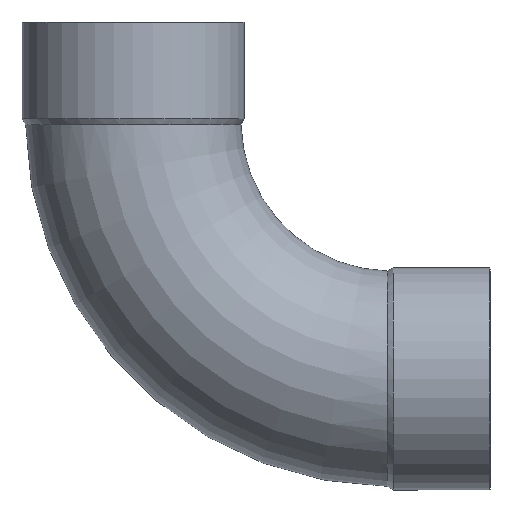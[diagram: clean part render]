
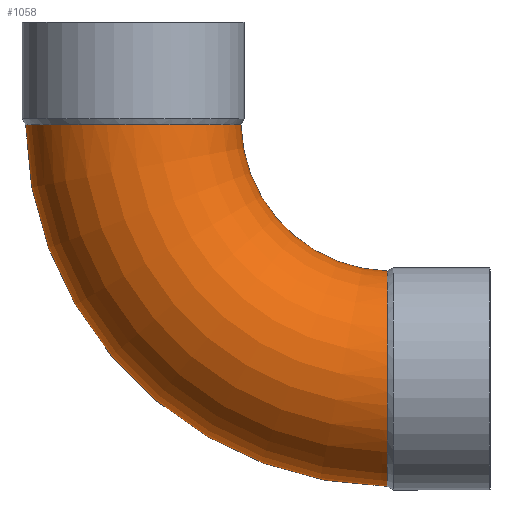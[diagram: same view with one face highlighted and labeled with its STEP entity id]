
A CAD part, front view. The second image highlights one B-rep face of the part: STEP entity #1058.
In plain terms, the highlighted toroidal (fillet/blend) face has major radius 129.6 mm and minor radius 54 mm.
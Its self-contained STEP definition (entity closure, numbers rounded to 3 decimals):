
#49=CARTESIAN_POINT('',(-161.551,0.,-2.223));
#50=VERTEX_POINT('',#49);
#51=CARTESIAN_POINT('',(19.812,0.,-183.587));
#52=VERTEX_POINT('',#51);
#53=CARTESIAN_POINT('',(22.035,0.,0.0));
#54=DIRECTION('',(0.0,-1.0,0.0));
#55=DIRECTION('',(0.0,0.0,-1.0));
#56=AXIS2_PLACEMENT_3D('',#53,#54,#55);
#57=CIRCLE('',#56,183.6);
#58=EDGE_CURVE('',#50,#52,#57,.T.);
#60=CARTESIAN_POINT('',(-53.534,0.,-2.147));
#61=VERTEX_POINT('',#60);
#85=CARTESIAN_POINT('',(19.888,0.,-75.57));
#86=VERTEX_POINT('',#85);
#87=CARTESIAN_POINT('',(22.035,0.,0.0));
#88=DIRECTION('',(0.0,1.0,0.0));
#89=DIRECTION('',(0.0,0.0,-1.0));
#90=AXIS2_PLACEMENT_3D('',#87,#88,#89);
#91=CIRCLE('',#90,75.6);
#92=EDGE_CURVE('',#86,#61,#91,.T.);
#224=CARTESIAN_POINT('',(-53.534,0.,-2.147));
#225=CARTESIAN_POINT('',(-53.534,-0.471,-2.147));
#226=CARTESIAN_POINT('',(-53.541,-0.942,-2.147));
#227=CARTESIAN_POINT('',(-53.737,-8.442,-2.147));
#228=CARTESIAN_POINT('',(-55.293,-15.367,-2.15));
#229=CARTESIAN_POINT('',(-60.971,-28.233,-2.158));
#230=CARTESIAN_POINT('',(-65.041,-34.051,-2.164));
#231=CARTESIAN_POINT('',(-75.183,-43.8,-2.175));
#232=CARTESIAN_POINT('',(-81.157,-47.637,-2.181));
#233=CARTESIAN_POINT('',(-94.241,-52.806,-2.191));
#234=CARTESIAN_POINT('',(-101.224,-54.088,-2.196));
#235=CARTESIAN_POINT('',(-115.289,-53.903,-2.205));
#236=CARTESIAN_POINT('',(-122.236,-52.438,-2.208));
#237=CARTESIAN_POINT('',(-135.176,-46.928,-2.214));
#238=CARTESIAN_POINT('',(-141.046,-42.935,-2.216));
#239=CARTESIAN_POINT('',(-150.925,-32.926,-2.22));
#240=CARTESIAN_POINT('',(-154.839,-27.005,-2.221));
#241=CARTESIAN_POINT('',(-160.178,-13.995,-2.223));
#242=CARTESIAN_POINT('',(-161.551,-7.031,-2.223));
#243=CARTESIAN_POINT('',(-161.551,0.,-2.223));
#244=B_SPLINE_CURVE_WITH_KNOTS('',3,(#224,#225,#226,#227,#228,#229,#230,#231,#232,#233,#234,#235,#236,#237,#238,#239,#240,#241,#242,#243),.UNSPECIFIED.,.F.,.U.,(4,2,2,2,2,2,2,2,2,4),(-17.019,-16.877,-14.768,-12.658,-10.548,-8.438,-6.328,-4.219,-2.109,0.0),.UNSPECIFIED.);
#245=EDGE_CURVE('',#61,#50,#244,.T.);
#1025=CARTESIAN_POINT('',(22.035,0.,0.0));
#1026=DIRECTION('',(0.0,-1.0,0.0));
#1027=DIRECTION('',(0.0,0.0,-1.0));
#1028=AXIS2_PLACEMENT_3D('',#1025,#1026,#1027);
#1029=TOROIDAL_SURFACE('',#1028,129.6,54.0);
#1030=ORIENTED_EDGE('',*,*,#58,.T.);
#1031=CARTESIAN_POINT('',(19.812,0.,-183.587));
#1032=CARTESIAN_POINT('',(19.812,-3.981,-183.587));
#1033=CARTESIAN_POINT('',(19.812,-7.95,-183.146));
#1034=CARTESIAN_POINT('',(19.812,-15.718,-181.401));
#1035=CARTESIAN_POINT('',(19.813,-19.494,-180.102));
#1036=CARTESIAN_POINT('',(19.814,-29.449,-175.392));
#1037=CARTESIAN_POINT('',(19.816,-35.157,-171.172));
#1038=CARTESIAN_POINT('',(19.82,-44.635,-160.781));
#1039=CARTESIAN_POINT('',(19.822,-48.314,-154.709));
#1040=CARTESIAN_POINT('',(19.828,-53.137,-141.496));
#1041=CARTESIAN_POINT('',(19.832,-54.235,-134.481));
#1042=CARTESIAN_POINT('',(19.841,-53.681,-120.424));
#1043=CARTESIAN_POINT('',(19.846,-52.033,-113.517));
#1044=CARTESIAN_POINT('',(19.857,-46.184,-100.724));
#1045=CARTESIAN_POINT('',(19.862,-42.038,-94.96));
#1046=CARTESIAN_POINT('',(19.874,-31.772,-85.347));
#1047=CARTESIAN_POINT('',(19.879,-25.751,-81.589));
#1048=CARTESIAN_POINT('',(19.886,-13.049,-76.762));
#1049=CARTESIAN_POINT('',(19.888,-6.55,-75.57));
#1050=CARTESIAN_POINT('',(19.888,0.,-75.57));
#1051=B_SPLINE_CURVE_WITH_KNOTS('',3,(#1031,#1032,#1033,#1034,#1035,#1036,#1037,#1038,#1039,#1040,#1041,#1042,#1043,#1044,#1045,#1046,#1047,#1048,#1049,#1050),.UNSPECIFIED.,.F.,.U.,(4,2,2,2,2,2,2,2,2,4),(-34.033,-32.839,-31.645,-29.535,-27.426,-25.316,-23.205,-21.095,-18.986,-17.019),.UNSPECIFIED.);
#1052=EDGE_CURVE('',#52,#86,#1051,.T.);
#1053=ORIENTED_EDGE('',*,*,#1052,.T.);
#1054=ORIENTED_EDGE('',*,*,#92,.T.);
#1055=ORIENTED_EDGE('',*,*,#245,.T.);
#1056=EDGE_LOOP('',(#1030,#1053,#1054,#1055));
#1057=FACE_OUTER_BOUND('',#1056,.T.);
#1058=ADVANCED_FACE('',(#1057),#1029,.T.);
